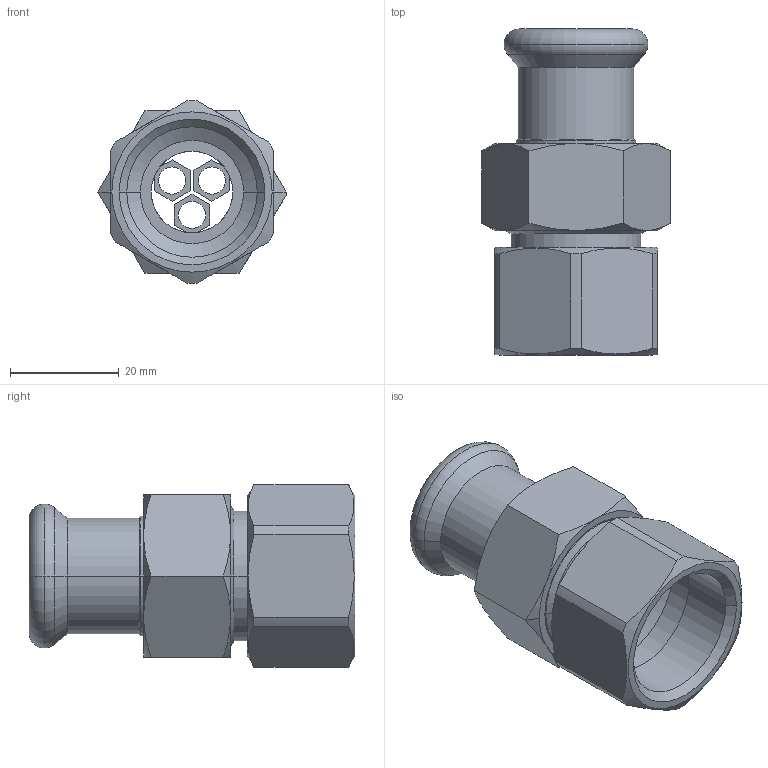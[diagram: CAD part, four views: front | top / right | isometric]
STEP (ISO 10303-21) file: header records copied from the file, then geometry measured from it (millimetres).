
FILE_DESCRIPTION(('OneSpaceDesigner STEP Export'),'2;1');
FILE_NAME('R2738 18xRp3-4.stp','2010-06-10T14:22:16',(''),(''),'OneSpace Designer STEP processor for AP214 (Solid Model)','OneSpace Modeling 15.00A 14-Mar-2007 (C) CoCreate Software GmbH','');
FILE_SCHEMA(('AUTOMOTIVE_DESIGN { 1 0 10303 214 1 1 1 1 }'));
Length unit declared in the file: millimetre
Products named in the file (2): R2738_18xRp3-4
Assembly tree (1 placements, depth 2):
  R2738_18xRp3-4
    R2738_18xRp3-4
Bounding box: 34.64 x 60 x 33.59 mm (x, y, z)
Volume: 18048.5 mm3; surface area: 12789.1 mm2
Topology: 1 solids, 1 shells, 158 faces, 374 edges, 226 vertices
Faces by surface type: cone 53, plane 49, cylinder 48, torus 8
Entity records: 5702 total; most frequent: CARTESIAN_POINT 2501, ORIENTED_EDGE 748, DIRECTION 522, EDGE_CURVE 374, VERTEX_POINT 226, AXIS2_PLACEMENT_3D 175, EDGE_LOOP 174, VECTOR 172
